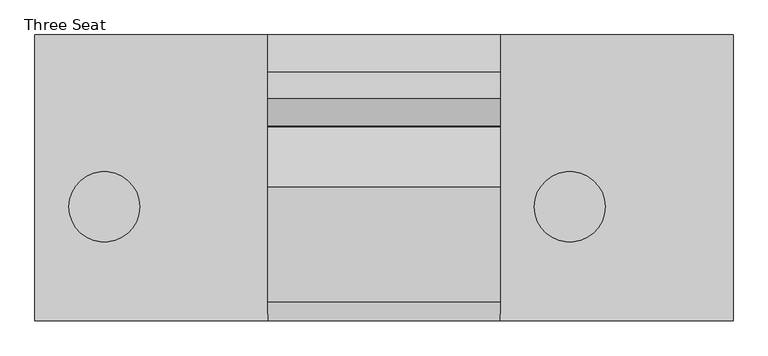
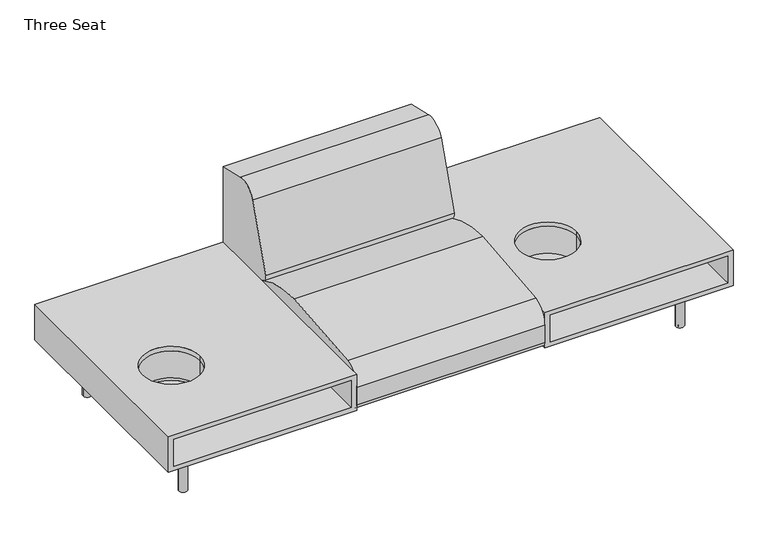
"""IFC4 building model written with IfcOpenShell, lengths in millimetres: furniture geometry, Coalesse_AM_Seating_LoungeChair_Sistema_LegBase_ThreeSeat : Three Seat."""

from ifc_helpers import new_model, si_unit, point, frame, frame_2d, origin, origin_with_axes, place, context, project, spatial, polyline, circle_curve, trimmed, segment, composite_curve, outline, extrude, source, transform, mapped, element, save
from ifc_brep_helpers import plane_surface, cylinder_surface, revolved_surface, advanced_brep


def three_seat_e2fe05eb(model_context):
    return source(origin(), model_context, "Body", "SolidModel", [
        advanced_brep(
        [(-353.0071698, -461.2704381, 336.5211742), (-353.0071698, -461.2704381, 223.173587), (-353.0071698, 459.4795619, 223.173587), (-353.0071698, 459.4795619, 336.5211742), (353.6069667, -461.2704381, 336.5211742), (353.6069667, 459.4795619, 336.5211742), (-37.7047777, -93.7879891, 336.5211742), (-265.0667966, -93.7879891, 336.5211742), (374.4965227, -461.2704381, 354.7774), (-374.8034773, -461.2704381, 354.7774), (-374.8034773, -461.2704381, 204.47), (374.4965227, -461.2704381, 204.47), (353.6069667, -461.2704381, 223.173587), (374.4965227, 459.4795619, 354.7774), (374.4965227, 459.4795619, 204.47), (-374.8034773, 459.4795619, 204.47), (-374.8034773, 459.4795619, 354.7774), (353.6069667, 459.4795619, 223.173587), (-265.0667966, -93.7879891, 354.7774), (-37.7047777, -93.7879891, 354.7774), (-265.0667966, -93.7879891, 223.173587), (-37.7047777, -93.7879891, 223.173587), (-265.0667966, -93.7879891, 212.4123377), (-37.7047777, -93.7879891, 212.4123377)],
        [
            (0, 1),
            (1, 2),
            (2, 3),
            (3, 0),
            (4, 0),
            (3, 5),
            (5, 4),
            (6, 7, circle_curve(frame((-151.3857872, -93.7879891, 336.5211742), z_axis=(0.0, 0.0, 1.0), x_axis=(1.0, 0.0, 0.0)), 113.6810095)),
            (7, 6, circle_curve(frame((-151.3857872, -93.7879891, 336.5211742), z_axis=(0.0, 0.0, 1.0), x_axis=(1.0, 0.0, 0.0)), 113.6810095)),
            (8, 9),
            (9, 10),
            (10, 11),
            (11, 8),
            (4, 12),
            (12, 1),
            (13, 14),
            (14, 15),
            (15, 16),
            (16, 13),
            (2, 17),
            (17, 5),
            (8, 13),
            (16, 9),
            (18, 19, circle_curve(frame((-151.3857872, -93.7879891, 354.7774), z_axis=(0.0, 0.0, -1.0), x_axis=(1.0, 0.0, 0.0)), 113.6810095)),
            (19, 18, circle_curve(frame((-151.3857872, -93.7879891, 354.7774), z_axis=(0.0, 0.0, -1.0), x_axis=(1.0, 0.0, 0.0)), 113.6810095)),
            (15, 10),
            (14, 11),
            (17, 12),
            (20, 21, circle_curve(frame((-151.3857872, -93.7879891, 223.173587), z_axis=(0.0, 0.0, -1.0), x_axis=(1.0, 0.0, 0.0)), 113.6810095)),
            (21, 20, circle_curve(frame((-151.3857872, -93.7879891, 223.173587), z_axis=(0.0, 0.0, -1.0), x_axis=(1.0, 0.0, 0.0)), 113.6810095)),
            (22, 23, circle_curve(frame((-151.3857872, -93.7879891, 212.4123377), z_axis=(0.0, 0.0, 1.0), x_axis=(1.0, 0.0, 0.0)), 113.6810095)),
            (23, 22, circle_curve(frame((-151.3857872, -93.7879891, 212.4123377), z_axis=(0.0, 0.0, 1.0), x_axis=(1.0, 0.0, 0.0)), 113.6810095)),
            (23, 21),
            (20, 22),
            (18, 7),
            (6, 19),
        ],
        [
            plane_surface(frame((-353.0071698, -461.2704381, 223.173587), z_axis=(1.0, 0.0, 0.0), x_axis=(0.0, 1.0, 0.0))),
            plane_surface(frame((-353.0071698, -461.2704381, 336.5211742), z_axis=(0.0, 0.0, -1.0), x_axis=(0.0, 1.0, 0.0))),
            plane_surface(frame((-371.2653576, -461.2704381, 354.7774), z_axis=(0.0, -1.0, 0.0), x_axis=(-1.0, 0.0, 0.0))),
            plane_surface(frame((-371.2653576, 459.4795619, 354.7774), z_axis=(0.0, 1.0, 0.0), x_axis=(1.0, 0.0, 0.0))),
            plane_surface(frame((374.4965227, -461.2704381, 354.7774), z_axis=(0.0, 0.0, 1.0), x_axis=(0.0, 1.0, 0.0))),
            plane_surface(frame((-374.8034773, -461.2704381, 354.7774), z_axis=(-1.0, 0.0, 0.0), x_axis=(0.0, 1.0, 0.0))),
            plane_surface(frame((-374.8034773, -461.2704381, 204.47), z_axis=(0.0, 0.0, -1.0), x_axis=(0.0, 1.0, 0.0))),
            plane_surface(frame((374.4965227, -461.2704381, 204.47), z_axis=(1.0, 0.0, 0.0), x_axis=(0.0, 1.0, 0.0))),
            plane_surface(frame((353.6069667, -461.2704381, 336.5211742), z_axis=(-1.0, 0.0, 0.0), x_axis=(0.0, 1.0, 0.0))),
            plane_surface(frame((353.6069667, -461.2704381, 223.173587), z_axis=(0.0, 0.0, 1.0), x_axis=(0.0, 1.0, 0.0))),
            plane_surface(frame((-37.7047777, -93.7879891, 212.4123377), z_axis=(0.0, 0.0, 1.0), x_axis=(0.0, -1.0, 0.0))),
            revolved_surface(polyline([(-37.70477770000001, -93.7879891, 212.4123377), (-37.70477770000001, -93.7879891, 223.173587)]), (-151.3857872, -93.7879891, 446.6108932), (0.0, 0.0, -1.0)),
            revolved_surface(polyline([(-37.70477770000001, -93.7879891, 336.5211742), (-37.70477770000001, -93.7879891, 354.7774)]), (-151.3857872, -93.7879891, 446.6108932), (0.0, 0.0, -1.0)),
        ],
        [
            (0, [[1, 2, 3, 4]]),
            (1, [[5, -4, 6, 7], [8, 9]]),
            (2, [[10, 11, 12, 13], [14, 15, -1, -5]]),
            (3, [[16, 17, 18, 19], [-6, -3, 20, 21]]),
            (4, [[-10, 22, -19, 23], [24, 25]]),
            (5, [[-11, -23, -18, 26]]),
            (6, [[-12, -26, -17, 27]]),
            (7, [[-13, -27, -16, -22]]),
            (8, [[-14, -7, -21, 28]]),
            (9, [[-15, -28, -20, -2], [29, 30]]),
            (10, [[31, 32]]),
            (11, [[-32, 33, -29, 34]]),
            (12, [[35, -8, 36, -24]]),
            (12, [[-35, -25, -36, -9]]),
            (11, [[-31, -34, -30, -33]]),
        ],
    ),
        extrude(outline(composite_curve([segment(trimmed(circle_curve(frame_2d((-151.3857872, -93.7879891)), 127.924967), [point((-279.3107542, -93.7879891))], [point((-23.4608201, -93.7879891))], False, "CARTESIAN"), True, "CONTINUOUS"), segment(trimmed(circle_curve(frame_2d((-151.3857872, -93.7879891)), 127.924967), [point((-23.4608201, -93.7879891))], [point((-279.3107542, -93.7879891))], False, "CARTESIAN"), True, "CONTINUOUS")], self_intersect=False), holes=[composite_curve([segment(trimmed(circle_curve(frame_2d((-151.3857872, -93.7879891)), 113.6810095), [point((-265.0667966, -93.7879891))], [point((-37.7047777, -93.7879891))], True, "CARTESIAN"), True, "CONTINUOUS"), segment(trimmed(circle_curve(frame_2d((-151.3857872, -93.7879891)), 113.6810095), [point((-37.7047777, -93.7879891))], [point((-265.0667966, -93.7879891))], True, "CARTESIAN"), True, "CONTINUOUS")], self_intersect=False)]), frame((0.0, 0.0, 212.4123377), z_axis=(0.0, 0.0, 1.0), x_axis=(1.0, 0.0, 0.0)), (0.0, 0.0, 1.0), 124.1087275),
        extrude(outline(composite_curve([segment(polyline([(459.4795619, 673.6041325), (459.4795619, 228.1929806)]), True, "CONTINUOUS"), segment(trimmed(circle_curve(frame_2d((191.495971, 228.1929806)), 267.983591), [point((459.4795619, 228.1929806))], [point((458.9860775, 211.937276))], False, "CARTESIAN"), True, "CONTINUOUS"), segment(polyline([(458.9860775, 211.937276), (177.4990556, 364.1028799)]), True, "CONTINUOUS"), segment(trimmed(circle_curve(frame_2d((189.5778307, 386.4470781)), 25.4), [point((177.4990556, 364.1028799))], [point((164.9600055, 392.7018911))], False, "CARTESIAN"), True, "CONTINUOUS"), segment(trimmed(circle_curve(frame_2d((1918.112812, -52.7331923)), 1808.8552115), [point((164.9600055, 392.7018911))], [point((254.1018253, 656.5090883))], False, "CARTESIAN"), True, "CONTINUOUS"), segment(trimmed(circle_curve(frame_2d((324.2001043, 626.6314831)), 76.2), [point((254.1018253, 656.5090883))], [point((341.3413746, 700.8784821))], False, "CARTESIAN"), True, "CONTINUOUS"), segment(polyline([(341.3413746, 700.8784821), (459.4795619, 673.6041325)]), True, "CONTINUOUS")], self_intersect=False)), frame((374.4965227, 0.0, 0.0), z_axis=(1.0, 0.0, 0.0), x_axis=(0.0, 1.0, 0.0)), (0.0, 0.0, 1.0), 749.3),
        extrude(outline(composite_curve([segment(trimmed(circle_curve(frame_2d((-438.9184381, 226.822)), 22.352), [point((-438.9184381, 204.47))], [point((-461.2704381, 226.822))], False, "CARTESIAN"), True, "CONTINUOUS"), segment(polyline([(-461.2704381, 226.822), (-461.2704381, 301.4421993)]), True, "CONTINUOUS"), segment(trimmed(circle_curve(frame_2d((-385.0704381, 301.4421993)), 76.2), [point((-461.2704381, 301.4421993))], [point((-398.9277015, 376.3716077))], False, "CARTESIAN"), True, "CONTINUOUS"), segment(trimmed(circle_curve(frame_2d((2.2103559, -1792.6740646)), 2205.8265729), [point((-398.9277015, 376.3716077))], [point((-31.1968175, 412.8995185))], False, "CARTESIAN"), True, "CONTINUOUS"), segment(trimmed(circle_curve(frame_2d((-24.5128424, -28.3829182)), 441.333054), [point((-31.1968175, 412.8995185))], [point((184.5757008, 360.2774035))], False, "CARTESIAN"), True, "CONTINUOUS"), segment(polyline([(184.5757008, 360.2774035), (458.9860775, 211.937276)]), True, "CONTINUOUS"), segment(trimmed(circle_curve(frame_2d((442.3266309, 226.7871991)), 22.3171991), [point((458.9860775, 211.937276))], [point((442.3266309, 204.47))], False, "CARTESIAN"), True, "CONTINUOUS"), segment(polyline([(442.3266309, 204.47), (-438.9184381, 204.47)]), True, "CONTINUOUS")], self_intersect=False)), frame((374.4965227, 0.0, 0.0), z_axis=(1.0, 0.0, 0.0), x_axis=(0.0, 1.0, 0.0)), (0.0, 0.0, 1.0), 749.3),
        advanced_brep(
        [(1475.1391799, -93.7879891, 336.5210652), (1219.2892458, -93.7879891, 336.5210652), (1219.2892458, -93.7879891, 212.4123377), (1475.1391799, -93.7879891, 212.4123377), (1460.8952223, -93.7879891, 336.5210652), (1233.5332034, -93.7879891, 336.5210652), (1233.5332034, -93.7879891, 223.173587), (1233.5332034, -93.7879891, 212.4123377), (1460.8952223, -93.7879891, 212.4123377), (1460.8952223, -93.7879891, 223.173587)],
        [
            (0, 1, circle_curve(frame((1347.2142128, -93.7879891, 336.5210652), z_axis=(0.0, 0.0, -1.0), x_axis=(1.0, 0.0, 0.0)), 127.924967)),
            (1, 2),
            (2, 3, circle_curve(frame((1347.2142128, -93.7879891, 212.4123377), z_axis=(0.0, 0.0, 1.0), x_axis=(1.0, 0.0, 0.0)), 127.924967)),
            (3, 0),
            (1, 0, circle_curve(frame((1347.2142128, -93.7879891, 336.5210652), z_axis=(0.0, 0.0, -1.0), x_axis=(1.0, 0.0, 0.0)), 127.924967)),
            (3, 2, circle_curve(frame((1347.2142128, -93.7879891, 212.4123377), z_axis=(0.0, 0.0, 1.0), x_axis=(1.0, 0.0, 0.0)), 127.924967)),
            (4, 5, circle_curve(frame((1347.2142128, -93.7879891, 336.5210652), z_axis=(0.0, 0.0, 1.0), x_axis=(1.0, 0.0, 0.0)), 113.6810095)),
            (5, 6),
            (6, 7),
            (7, 8, circle_curve(frame((1347.2142128, -93.7879891, 212.4123377), z_axis=(0.0, 0.0, -1.0), x_axis=(1.0, 0.0, 0.0)), 113.6810095)),
            (8, 9),
            (9, 4),
            (5, 4, circle_curve(frame((1347.2142128, -93.7879891, 336.5210652), z_axis=(0.0, 0.0, 1.0), x_axis=(1.0, 0.0, 0.0)), 113.6810095)),
            (8, 7, circle_curve(frame((1347.2142128, -93.7879891, 212.4123377), z_axis=(0.0, 0.0, -1.0), x_axis=(1.0, 0.0, 0.0)), 113.6810095)),
        ],
        [
            cylinder_surface(frame((1347.2142128, -93.7879891, 0.0), z_axis=(0.0, 0.0, 1.0), x_axis=(1.0, 0.0, 0.0)), 127.924967),
            revolved_surface(polyline([(1460.8952223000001, -93.7879891, 212.4123377), (1460.8952223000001, -93.7879891, 336.5210652)]), (1347.2142128, -93.7879891, 212.4123377), (0.0, 0.0, -1.0)),
            plane_surface(frame((1460.8952223, -93.7879891, 212.4123377), z_axis=(0.0, 0.0, -1.0), x_axis=(0.0, 1.0, 0.0))),
            plane_surface(frame((1460.8952223, -93.7879891, 336.5210652), z_axis=(0.0, 0.0, 1.0), x_axis=(0.0, -1.0, 0.0))),
        ],
        [
            (0, [[1, 2, 3, 4]]),
            (0, [[5, -4, 6, -2]]),
            (1, [[7, 8, 9, 10, 11, 12]]),
            (1, [[13, -12, -11, 14, -9, -8]]),
            (2, [[-6, -3], [-14, -10]]),
            (3, [[-1, -5], [-7, -13]]),
        ],
    ),
        advanced_brep(
        [(1852.2069667, -461.2704381, 336.5211742), (1145.5928302, -461.2704381, 336.5211742), (1145.5928302, 459.4795619, 336.5211742), (1852.2069667, 459.4795619, 336.5211742), (1460.8952223, -93.7879891, 336.5211742), (1233.5332034, -93.7879891, 336.5211742), (1873.0965227, -461.2704381, 354.7774), (1123.7965227, -461.2704381, 354.7774), (1123.7965227, -461.2704381, 204.47), (1873.0965227, -461.2704381, 204.47), (1852.2069667, -461.2704381, 223.173587), (1145.5928302, -461.2704381, 223.173587), (1873.0965227, 459.4795619, 354.7774), (1873.0965227, 459.4795619, 204.47), (1123.7965227, 459.4795619, 204.47), (1123.7965227, 459.4795619, 354.7774), (1145.5928302, 459.4795619, 223.173587), (1852.2069667, 459.4795619, 223.173587), (1233.5332034, -93.7879891, 354.7774), (1460.8952223, -93.7879891, 354.7774)],
        [
            (0, 1),
            (1, 2),
            (2, 3),
            (3, 0),
            (4, 5, circle_curve(frame((1347.2142128, -93.7879891, 336.5211742), z_axis=(0.0, 0.0, 1.0), x_axis=(1.0, 0.0, 0.0)), 113.6810095)),
            (5, 4, circle_curve(frame((1347.2142128, -93.7879891, 336.5211742), z_axis=(0.0, 0.0, 1.0), x_axis=(1.0, 0.0, 0.0)), 113.6810095)),
            (6, 7),
            (7, 8),
            (8, 9),
            (9, 6),
            (0, 10),
            (10, 11),
            (11, 1),
            (12, 13),
            (13, 14),
            (14, 15),
            (15, 12),
            (2, 16),
            (16, 17),
            (17, 3),
            (6, 12),
            (15, 7),
            (18, 19, circle_curve(frame((1347.2142128, -93.7879891, 354.7774), z_axis=(0.0, 0.0, -1.0), x_axis=(1.0, 0.0, 0.0)), 113.6810095)),
            (19, 18, circle_curve(frame((1347.2142128, -93.7879891, 354.7774), z_axis=(0.0, 0.0, -1.0), x_axis=(1.0, 0.0, 0.0)), 113.6810095)),
            (14, 8),
            (13, 9),
            (11, 16),
            (17, 10),
            (18, 5),
            (4, 19),
        ],
        [
            plane_surface(frame((1145.5928302, -461.2704381, 336.5211742), z_axis=(0.0, 0.0, -1.0), x_axis=(0.0, 1.0, 0.0))),
            plane_surface(frame((1127.3346424, -461.2704381, 354.7774), z_axis=(0.0, -1.0, 0.0), x_axis=(-1.0, 0.0, 0.0))),
            plane_surface(frame((1127.3346424, 459.4795619, 354.7774), z_axis=(0.0, 1.0, 0.0), x_axis=(1.0, 0.0, 0.0))),
            plane_surface(frame((1873.0965227, -461.2704381, 354.7774), z_axis=(0.0, 0.0, 1.0), x_axis=(0.0, 1.0, 0.0))),
            plane_surface(frame((1123.7965227, -461.2704381, 354.7774), z_axis=(-1.0, 0.0, 0.0), x_axis=(0.0, 1.0, 0.0))),
            plane_surface(frame((1123.7965227, -461.2704381, 204.47), z_axis=(0.0, 0.0, -1.0), x_axis=(0.0, 1.0, 0.0))),
            plane_surface(frame((1873.0965227, -461.2704381, 204.47), z_axis=(1.0, 0.0, 0.0), x_axis=(0.0, 1.0, 0.0))),
            plane_surface(frame((1145.5928302, -461.2704381, 223.173587), z_axis=(1.0, 0.0, 0.0), x_axis=(0.0, 1.0, 0.0))),
            plane_surface(frame((1852.2069667, -461.2704381, 336.5211742), z_axis=(-1.0, 0.0, 0.0), x_axis=(0.0, 1.0, 0.0))),
            plane_surface(frame((1852.2069667, -461.2704381, 223.173587), z_axis=(0.0, 0.0, 1.0), x_axis=(0.0, 1.0, 0.0))),
            revolved_surface(polyline([(1460.8952223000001, -93.7879891, 336.5211742), (1460.8952223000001, -93.7879891, 354.7774)]), (1347.2142128, -93.7879891, 354.7774), (0.0, 0.0, -1.0)),
        ],
        [
            (0, [[1, 2, 3, 4], [5, 6]]),
            (1, [[7, 8, 9, 10], [11, 12, 13, -1]]),
            (2, [[14, 15, 16, 17], [-3, 18, 19, 20]]),
            (3, [[-7, 21, -17, 22], [23, 24]]),
            (4, [[-8, -22, -16, 25]]),
            (5, [[-9, -25, -15, 26]]),
            (6, [[-10, -26, -14, -21]]),
            (7, [[-13, 27, -18, -2]]),
            (8, [[-11, -4, -20, 28]]),
            (9, [[-12, -28, -19, -27]]),
            (10, [[29, -5, 30, -23]]),
            (10, [[-29, -24, -30, -6]]),
        ],
    ),
        extrude(outline(composite_curve([segment(trimmed(circle_curve(frame_2d((1738.4765227, 335.9943389)), 6.096), [point((1744.5725227, 335.9943389))], [point((1732.3805227, 335.9943389))], False, "CARTESIAN"), True, "CONTINUOUS"), segment(trimmed(circle_curve(frame_2d((1738.4765227, 335.9943389)), 6.096), [point((1732.3805227, 335.9943389))], [point((1744.5725227, 335.9943389))], False, "CARTESIAN"), True, "CONTINUOUS")], self_intersect=False)), origin_with_axes(), (0.0, 0.0, 1.0), 4.3662291),
        extrude(outline(composite_curve([segment(trimmed(circle_curve(frame_2d((1738.4765227, -327.2630889)), 6.096), [point((1744.5725227, -327.2630889))], [point((1732.3805227, -327.2630889))], False, "CARTESIAN"), True, "CONTINUOUS"), segment(trimmed(circle_curve(frame_2d((1738.4765227, -327.2630889)), 6.096), [point((1732.3805227, -327.2630889))], [point((1744.5725227, -327.2630889))], False, "CARTESIAN"), True, "CONTINUOUS")], self_intersect=False)), origin_with_axes(), (0.0, 0.0, 1.0), 4.3662291),
        extrude(outline(composite_curve([segment(polyline([(157.0399209, 1751.056375), (201.7356243, 1751.056375)]), True, "CONTINUOUS"), segment(trimmed(circle_curve(frame_2d((201.7356243, 1748.008375)), 3.048), [point((201.7356243, 1751.056375))], [point((204.7836243, 1748.008375))], False, "CARTESIAN"), True, "CONTINUOUS"), segment(polyline([(204.7836243, 1748.008375), (204.7836243, 1728.666199)]), True, "CONTINUOUS"), segment(trimmed(circle_curve(frame_2d((201.7356243, 1728.666199)), 3.048), [point((204.7836243, 1728.666199))], [point((201.7356243, 1725.618199))], False, "CARTESIAN"), True, "CONTINUOUS"), segment(polyline([(201.7356243, 1725.618199), (157.1249936, 1725.618199)]), True, "CONTINUOUS"), segment(trimmed(circle_curve(frame_2d((157.1249936, 1728.7512718)), 3.1330728), [point((157.1249936, 1725.618199))], [point((153.9919209, 1728.7512718))], False, "CARTESIAN"), True, "CONTINUOUS"), segment(polyline([(153.9919209, 1728.7512718), (153.9919209, 1748.008375)]), True, "CONTINUOUS"), segment(trimmed(circle_curve(frame_2d((157.0399209, 1748.008375)), 3.048), [point((153.9919209, 1748.008375))], [point((157.0399209, 1751.056375))], False, "CARTESIAN"), True, "CONTINUOUS")], self_intersect=False)), frame((0.0, 222.3519802, 0.0), z_axis=(0.0, 1.0, 0.0), x_axis=(0.0, 0.0, 1.0)), (0.0, 0.0, 1.0), 92.6273161),
        extrude(outline(composite_curve([segment(polyline([(157.0399209, 1751.056375), (201.7356243, 1751.056375)]), True, "CONTINUOUS"), segment(trimmed(circle_curve(frame_2d((201.7356243, 1748.008375)), 3.048), [point((201.7356243, 1751.056375))], [point((204.7836243, 1748.008375))], False, "CARTESIAN"), True, "CONTINUOUS"), segment(polyline([(204.7836243, 1748.008375), (204.7836243, 1728.666199)]), True, "CONTINUOUS"), segment(trimmed(circle_curve(frame_2d((201.7356243, 1728.666199)), 3.048), [point((204.7836243, 1728.666199))], [point((201.7356243, 1725.618199))], False, "CARTESIAN"), True, "CONTINUOUS"), segment(polyline([(201.7356243, 1725.618199), (157.1249936, 1725.618199)]), True, "CONTINUOUS"), segment(trimmed(circle_curve(frame_2d((157.1249936, 1728.7512718)), 3.1330728), [point((157.1249936, 1725.618199))], [point((153.9919209, 1728.7512718))], False, "CARTESIAN"), True, "CONTINUOUS"), segment(polyline([(153.9919209, 1728.7512718), (153.9919209, 1748.008375)]), True, "CONTINUOUS"), segment(trimmed(circle_curve(frame_2d((157.0399209, 1748.008375)), 3.048), [point((153.9919209, 1748.008375))], [point((157.0399209, 1751.056375))], False, "CARTESIAN"), True, "CONTINUOUS")], self_intersect=False)), frame((0.0, -314.9792963, 0.0), z_axis=(0.0, 1.0, 0.0), x_axis=(0.0, 0.0, 1.0)), (0.0, 0.0, 1.0), 92.6273161),
        extrude(outline(composite_curve([segment(trimmed(circle_curve(frame_2d((176.3356606, 1715.8259944)), 3.048), [point((179.3836606, 1715.8259944))], [point((176.3356606, 1712.7779944))], False, "CARTESIAN"), True, "CONTINUOUS"), segment(polyline([(176.3356606, 1712.7779944), (157.0399209, 1712.7779944)]), True, "CONTINUOUS"), segment(trimmed(circle_curve(frame_2d((157.0399209, 1715.8259944)), 3.048), [point((157.0399209, 1712.7779944))], [point((153.9919209, 1715.8259944))], False, "CARTESIAN"), True, "CONTINUOUS"), segment(polyline([(153.9919209, 1715.8259944), (153.9919209, 1760.5135501)]), True, "CONTINUOUS"), segment(trimmed(circle_curve(frame_2d((157.056462, 1760.5135501)), 3.0645412), [point((153.9919209, 1760.5135501))], [point((157.056462, 1763.5780913))], False, "CARTESIAN"), True, "CONTINUOUS"), segment(polyline([(157.056462, 1763.5780913), (176.3356606, 1763.5780913)]), True, "CONTINUOUS"), segment(trimmed(circle_curve(frame_2d((176.3356606, 1760.5300913)), 3.048), [point((176.3356606, 1763.5780913))], [point((179.3836606, 1760.5300913))], False, "CARTESIAN"), True, "CONTINUOUS"), segment(polyline([(179.3836606, 1760.5300913), (179.3836606, 1715.8259944)]), True, "CONTINUOUS")], self_intersect=False)), frame((0.0, -222.3519802, 0.0), z_axis=(0.0, 1.0, 0.0), x_axis=(0.0, 0.0, 1.0)), (0.0, 0.0, 1.0), 444.7039604),
        extrude(outline(composite_curve([segment(trimmed(circle_curve(frame_2d((1738.4765227, 332.3095741)), 16.51), [point((1754.9865227, 332.3095741))], [point((1721.9665227, 332.3095741))], False, "CARTESIAN"), True, "CONTINUOUS"), segment(trimmed(circle_curve(frame_2d((1738.4765227, 332.3095741)), 16.51), [point((1721.9665227, 332.3095741))], [point((1754.9865227, 332.3095741))], False, "CARTESIAN"), True, "CONTINUOUS")], self_intersect=False)), frame((0.0, 0.0, 4.3662291), z_axis=(0.0, 0.0, 1.0), x_axis=(1.0, 0.0, 0.0)), (0.0, 0.0, 1.0), 200.1037709),
        extrude(outline(composite_curve([segment(trimmed(circle_curve(frame_2d((1738.0796477, -327.5470741)), 16.51), [point((1754.5896477, -327.5470741))], [point((1721.5696477, -327.5470741))], False, "CARTESIAN"), True, "CONTINUOUS"), segment(trimmed(circle_curve(frame_2d((1738.0796477, -327.5470741)), 16.51), [point((1721.5696477, -327.5470741))], [point((1754.5896477, -327.5470741))], False, "CARTESIAN"), True, "CONTINUOUS")], self_intersect=False)), frame((0.0, 0.0, 4.3662291), z_axis=(0.0, 0.0, 1.0), x_axis=(1.0, 0.0, 0.0)), (0.0, 0.0, 1.0), 200.1037709),
        extrude(outline(composite_curve([segment(trimmed(circle_curve(frame_2d((-240.1834773, 335.9943389)), 6.096), [point((-246.2794773, 335.9943389))], [point((-234.0874773, 335.9943389))], False, "CARTESIAN"), True, "CONTINUOUS"), segment(trimmed(circle_curve(frame_2d((-240.1834773, 335.9943389)), 6.096), [point((-234.0874773, 335.9943389))], [point((-246.2794773, 335.9943389))], False, "CARTESIAN"), True, "CONTINUOUS")], self_intersect=False)), origin_with_axes(), (0.0, 0.0, 1.0), 4.3662291),
        extrude(outline(composite_curve([segment(trimmed(circle_curve(frame_2d((-240.1834773, -327.2630889)), 6.096), [point((-246.2794773, -327.2630889))], [point((-234.0874773, -327.2630889))], False, "CARTESIAN"), True, "CONTINUOUS"), segment(trimmed(circle_curve(frame_2d((-240.1834773, -327.2630889)), 6.096), [point((-234.0874773, -327.2630889))], [point((-246.2794773, -327.2630889))], False, "CARTESIAN"), True, "CONTINUOUS")], self_intersect=False)), origin_with_axes(), (0.0, 0.0, 1.0), 4.3662291),
        extrude(outline(composite_curve([segment(trimmed(circle_curve(frame_2d((157.0399209, -249.7153296)), 3.048), [point((157.0399209, -252.7633296))], [point((153.9919209, -249.7153296))], False, "CARTESIAN"), True, "CONTINUOUS"), segment(polyline([(153.9919209, -249.7153296), (153.9919209, -230.4582264)]), True, "CONTINUOUS"), segment(trimmed(circle_curve(frame_2d((157.1249936, -230.4582264)), 3.1330728), [point((153.9919209, -230.4582264))], [point((157.1249936, -227.3251537))], False, "CARTESIAN"), True, "CONTINUOUS"), segment(polyline([(157.1249936, -227.3251537), (201.7356243, -227.3251537)]), True, "CONTINUOUS"), segment(trimmed(circle_curve(frame_2d((201.7356243, -230.3731537)), 3.048), [point((201.7356243, -227.3251537))], [point((204.7836243, -230.3731537))], False, "CARTESIAN"), True, "CONTINUOUS"), segment(polyline([(204.7836243, -230.3731537), (204.7836243, -249.7153296)]), True, "CONTINUOUS"), segment(trimmed(circle_curve(frame_2d((201.7356243, -249.7153296)), 3.048), [point((204.7836243, -249.7153296))], [point((201.7356243, -252.7633296))], False, "CARTESIAN"), True, "CONTINUOUS"), segment(polyline([(201.7356243, -252.7633296), (157.0399209, -252.7633296)]), True, "CONTINUOUS")], self_intersect=False)), frame((0.0, 222.3519802, 0.0), z_axis=(0.0, 1.0, 0.0), x_axis=(0.0, 0.0, 1.0)), (0.0, 0.0, 1.0), 92.6273161),
        extrude(outline(composite_curve([segment(trimmed(circle_curve(frame_2d((157.0399209, -249.7153296)), 3.048), [point((157.0399209, -252.7633296))], [point((153.9919209, -249.7153296))], False, "CARTESIAN"), True, "CONTINUOUS"), segment(polyline([(153.9919209, -249.7153296), (153.9919209, -230.4582264)]), True, "CONTINUOUS"), segment(trimmed(circle_curve(frame_2d((157.1249936, -230.4582264)), 3.1330728), [point((153.9919209, -230.4582264))], [point((157.1249936, -227.3251537))], False, "CARTESIAN"), True, "CONTINUOUS"), segment(polyline([(157.1249936, -227.3251537), (201.7356243, -227.3251537)]), True, "CONTINUOUS"), segment(trimmed(circle_curve(frame_2d((201.7356243, -230.3731537)), 3.048), [point((201.7356243, -227.3251537))], [point((204.7836243, -230.3731537))], False, "CARTESIAN"), True, "CONTINUOUS"), segment(polyline([(204.7836243, -230.3731537), (204.7836243, -249.7153296)]), True, "CONTINUOUS"), segment(trimmed(circle_curve(frame_2d((201.7356243, -249.7153296)), 3.048), [point((204.7836243, -249.7153296))], [point((201.7356243, -252.7633296))], False, "CARTESIAN"), True, "CONTINUOUS"), segment(polyline([(201.7356243, -252.7633296), (157.0399209, -252.7633296)]), True, "CONTINUOUS")], self_intersect=False)), frame((0.0, -314.9792963, 0.0), z_axis=(0.0, 1.0, 0.0), x_axis=(0.0, 0.0, 1.0)), (0.0, 0.0, 1.0), 92.6273161),
        extrude(outline(composite_curve([segment(polyline([(179.3836606, -217.532949), (179.3836606, -262.2370459)]), True, "CONTINUOUS"), segment(trimmed(circle_curve(frame_2d((176.3356606, -262.2370459)), 3.048), [point((179.3836606, -262.2370459))], [point((176.3356606, -265.2850459))], False, "CARTESIAN"), True, "CONTINUOUS"), segment(polyline([(176.3356606, -265.2850459), (157.056462, -265.2850459)]), True, "CONTINUOUS"), segment(trimmed(circle_curve(frame_2d((157.056462, -262.2205047)), 3.0645412), [point((157.056462, -265.2850459))], [point((153.9919209, -262.2205047))], False, "CARTESIAN"), True, "CONTINUOUS"), segment(polyline([(153.9919209, -262.2205047), (153.9919209, -217.532949)]), True, "CONTINUOUS"), segment(trimmed(circle_curve(frame_2d((157.0399209, -217.532949)), 3.048), [point((153.9919209, -217.532949))], [point((157.0399209, -214.484949))], False, "CARTESIAN"), True, "CONTINUOUS"), segment(polyline([(157.0399209, -214.484949), (176.3356606, -214.484949)]), True, "CONTINUOUS"), segment(trimmed(circle_curve(frame_2d((176.3356606, -217.532949)), 3.048), [point((176.3356606, -214.484949))], [point((179.3836606, -217.532949))], False, "CARTESIAN"), True, "CONTINUOUS")], self_intersect=False)), frame((0.0, -222.3519802, 0.0), z_axis=(0.0, 1.0, 0.0), x_axis=(0.0, 0.0, 1.0)), (0.0, 0.0, 1.0), 444.7039604),
        extrude(outline(composite_curve([segment(trimmed(circle_curve(frame_2d((-240.1834773, 332.3095741)), 16.51), [point((-256.6934773, 332.3095741))], [point((-223.6734773, 332.3095741))], False, "CARTESIAN"), True, "CONTINUOUS"), segment(trimmed(circle_curve(frame_2d((-240.1834773, 332.3095741)), 16.51), [point((-223.6734773, 332.3095741))], [point((-256.6934773, 332.3095741))], False, "CARTESIAN"), True, "CONTINUOUS")], self_intersect=False)), frame((0.0, 0.0, 4.3662291), z_axis=(0.0, 0.0, 1.0), x_axis=(1.0, 0.0, 0.0)), (0.0, 0.0, 1.0), 200.1037709),
        extrude(outline(composite_curve([segment(trimmed(circle_curve(frame_2d((-239.7866023, -327.5470741)), 16.51), [point((-256.2966023, -327.5470741))], [point((-223.2766023, -327.5470741))], False, "CARTESIAN"), True, "CONTINUOUS"), segment(trimmed(circle_curve(frame_2d((-239.7866023, -327.5470741)), 16.51), [point((-223.2766023, -327.5470741))], [point((-256.2966023, -327.5470741))], False, "CARTESIAN"), True, "CONTINUOUS")], self_intersect=False)), frame((0.0, 0.0, 4.3662291), z_axis=(0.0, 0.0, 1.0), x_axis=(1.0, 0.0, 0.0)), (0.0, 0.0, 1.0), 200.1037709),
    ])


if __name__ == "__main__":
    model = new_model("IFC4")
    model_context = context("Model", 3, world=origin())
    ifc_project = project(units=[si_unit("LENGTHUNIT", "METRE", prefix="MILLI")], contexts=[model_context])
    site = spatial("IfcSite", under=ifc_project)
    building = spatial("IfcBuilding", under=site)
    placement = place(None, origin())
    three_seat_shape = three_seat_e2fe05eb(model_context)
    element("IfcFurniture", 1, ObjectType="Coalesse_AM_Seating_LoungeChair_Sistema_LegBase_ThreeSeat : Three Seat", at=placement, inside=building, context=model_context, shape_type="MappedRepresentation", body=[
        mapped(three_seat_shape, transform((0.0, 0.0, 0.0), x_axis=(1.0, 0.0, 0.0), y_axis=(0.0, 1.0, 0.0), z_axis=(0.0, 0.0, 1.0))),
    ])
    save(model, "model.ifc")
